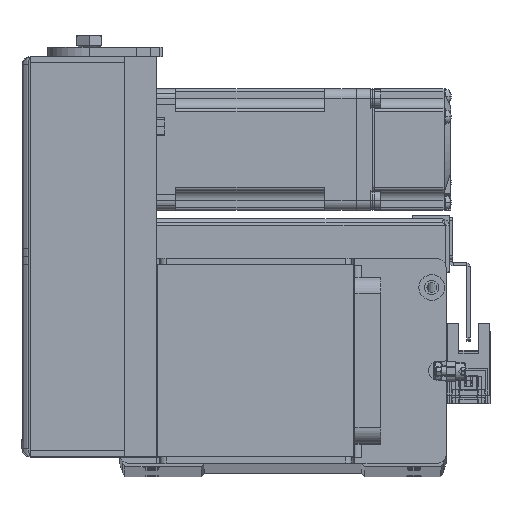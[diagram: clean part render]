
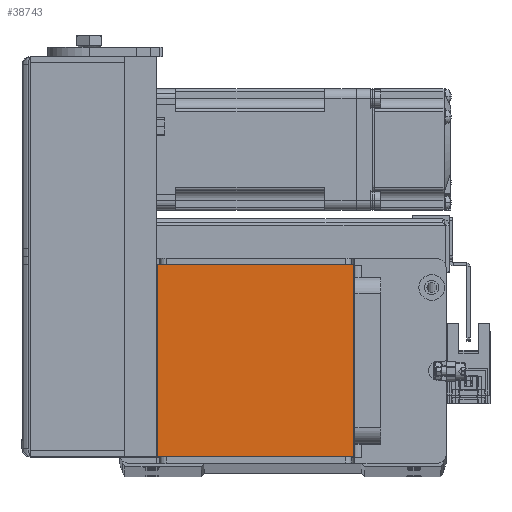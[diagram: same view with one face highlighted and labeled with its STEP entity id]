
A CAD part, top view. The second image highlights one B-rep face of the part: STEP entity #38743.
In plain terms, the highlighted planar face has unit normal (0, 0, 1) as drawn and (0, 1, 0) by its records, which use the part's own axes.
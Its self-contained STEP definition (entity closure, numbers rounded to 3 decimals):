
#17 = CARTESIAN_POINT ( 'NONE',  ( 30.7, 88., -62. ) ) ;
#147 = ORIENTED_EDGE ( 'NONE', *, *, #37520, .F. ) ;
#2796 = VECTOR ( 'NONE', #27201, 1000. ) ;
#3262 = DIRECTION ( 'NONE',  ( -1., 0., 0. ) ) ;
#5388 = DIRECTION ( 'NONE',  ( 1., 0., 0. ) ) ;
#5544 = AXIS2_PLACEMENT_3D ( 'NONE', #30252, #11749, #3262 ) ;
#6055 = VERTEX_POINT ( 'NONE', #19115 ) ;
#6222 = PLANE ( 'NONE',  #5544 ) ;
#7645 = VECTOR ( 'NONE', #13875, 1000. ) ;
#7681 = EDGE_LOOP ( 'NONE', ( #38338, #20560, #14639, #147 ) ) ;
#7920 = CARTESIAN_POINT ( 'NONE',  ( 30.7, 88., -2. ) ) ;
#8383 = LINE ( 'NONE', #23344, #24369 ) ;
#11749 = DIRECTION ( 'NONE',  ( 0., 1., 0. ) ) ;
#12361 = EDGE_CURVE ( 'NONE', #23111, #6055, #14268, .T. ) ;
#13875 = DIRECTION ( 'NONE',  ( -1., 0., 0. ) ) ;
#14071 = CARTESIAN_POINT ( 'NONE',  ( -31., 88., -2. ) ) ;
#14268 = LINE ( 'NONE', #14071, #7645 ) ;
#14639 = ORIENTED_EDGE ( 'NONE', *, *, #12361, .F. ) ;
#14667 = CARTESIAN_POINT ( 'NONE',  ( -30.7, 88., -62. ) ) ;
#15046 = EDGE_CURVE ( 'NONE', #37566, #17575, #32541, .T. ) ;
#15158 = EDGE_CURVE ( 'NONE', #37566, #6055, #34092, .T. ) ;
#17575 = VERTEX_POINT ( 'NONE', #17 ) ;
#18150 = CARTESIAN_POINT ( 'NONE',  ( -30.7, 88., -64. ) ) ;
#19115 = CARTESIAN_POINT ( 'NONE',  ( -30.7, 88., -2. ) ) ;
#20560 = ORIENTED_EDGE ( 'NONE', *, *, #15158, .T. ) ;
#23111 = VERTEX_POINT ( 'NONE', #7920 ) ;
#23344 = CARTESIAN_POINT ( 'NONE',  ( 30.7, 88., -64. ) ) ;
#24369 = VECTOR ( 'NONE', #38555, 1000. ) ;
#27201 = DIRECTION ( 'NONE',  ( 0., 0., 1. ) ) ;
#30252 = CARTESIAN_POINT ( 'NONE',  ( 30.7, 88., -64. ) ) ;
#32541 = LINE ( 'NONE', #35897, #36776 ) ;
#33369 = FACE_OUTER_BOUND ( 'NONE', #7681, .T. ) ;
#34092 = LINE ( 'NONE', #18150, #2796 ) ;
#35897 = CARTESIAN_POINT ( 'NONE',  ( -31., 88., -62. ) ) ;
#36776 = VECTOR ( 'NONE', #5388, 1000. ) ;
#37520 = EDGE_CURVE ( 'NONE', #17575, #23111, #8383, .T. ) ;
#37566 = VERTEX_POINT ( 'NONE', #14667 ) ;
#38338 = ORIENTED_EDGE ( 'NONE', *, *, #15046, .F. ) ;
#38555 = DIRECTION ( 'NONE',  ( 0., 0., 1. ) ) ;
#38743 = ADVANCED_FACE ( 'NONE', ( #33369 ), #6222, .T. ) ;
